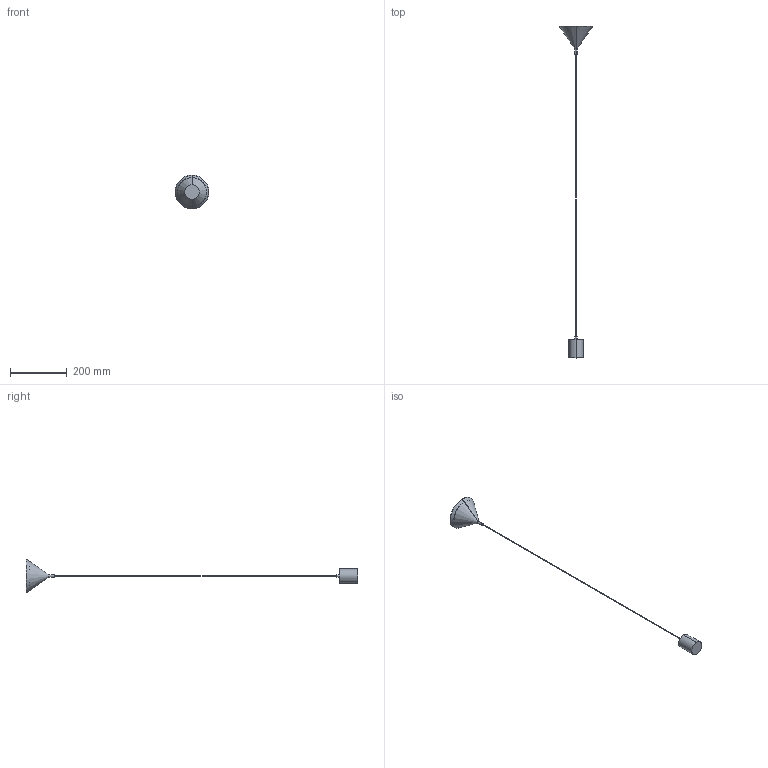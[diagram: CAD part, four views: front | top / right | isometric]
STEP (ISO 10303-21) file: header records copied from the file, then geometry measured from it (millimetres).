
FILE_DESCRIPTION (( 'STEP AP214' ), '1' );
FILE_NAME ('COLGANTE ANZA.STEP', '2024-10-14T15:24:18', ( '' ), ( '' ), 'SwSTEP 2.0', 'SolidWorks 2018', '' );
FILE_SCHEMA (( 'AUTOMOTIVE_DESIGN' ));
Length unit declared in the file: millimetre
Products named in the file (1): COLGANTE ANZA
Bounding box: 119.07 x 1165 x 119.07 mm (x, y, z)
Volume: 178232.9 mm3; surface area: 79347.2 mm2
Topology: 6 solids, 6 shells, 29 faces, 46 edges, 30 vertices
Faces by surface type: plane 13, cylinder 8, cone 6, torus 2
Entity records: 755 total; most frequent: DIRECTION 138, CARTESIAN_POINT 106, ORIENTED_EDGE 92, AXIS2_PLACEMENT_3D 62, EDGE_CURVE 46, CIRCLE 32, VERTEX_POINT 30, EDGE_LOOP 30
